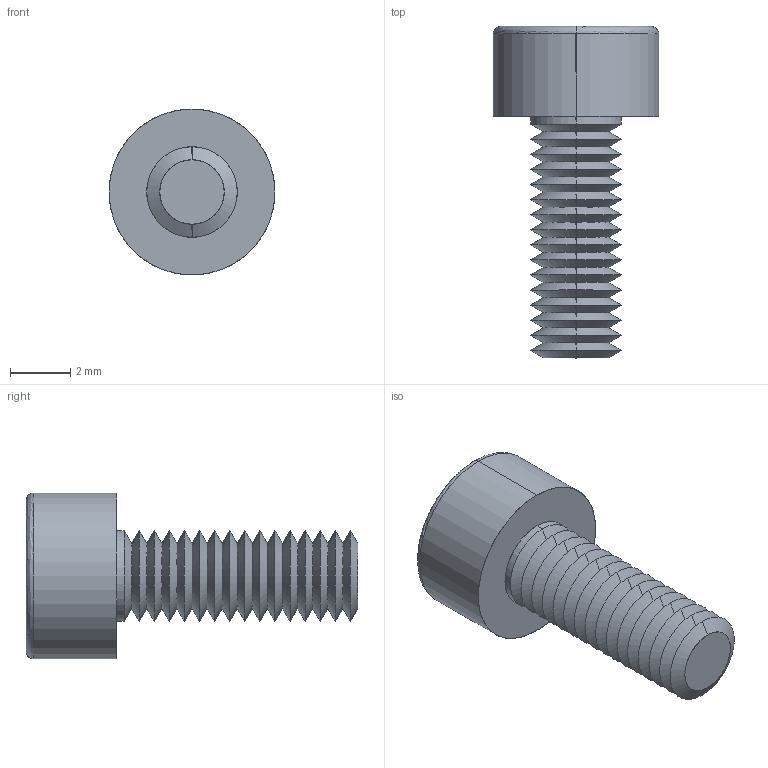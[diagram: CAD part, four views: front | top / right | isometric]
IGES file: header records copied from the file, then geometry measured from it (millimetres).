
Start section: SolidWorks IGES file using analytic representation for surfaces
Global section: file name: C:\Users\ianosborn\Desktop\N0007.91N_v2\N0007.91N_v2_20250519_IGES\91N.030.0080.igs; native system: SolidWorks 2019; preprocessor: SolidWorks 2019; author: IanOsborn; date: 250520.094951; units: millimetre
Bounding box: 5.5 x 11 x 5.5 mm (x, y, z)
Surface area: 243.5 mm2 (no closed solid volume)
Topology: 0 solids, 0 shells, 92 faces, 553 edges, 551 vertices
Faces by surface type: revolution 75, bspline 17
